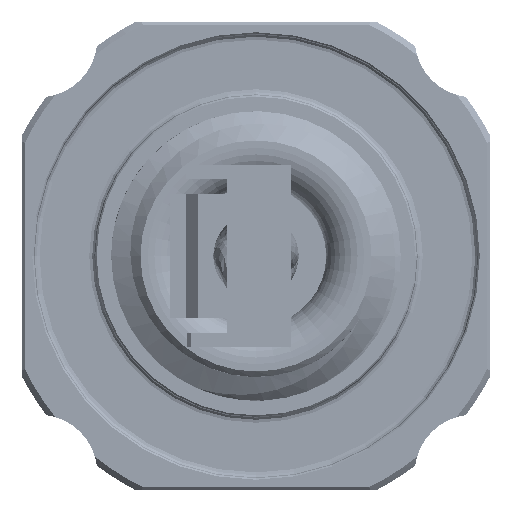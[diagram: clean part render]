
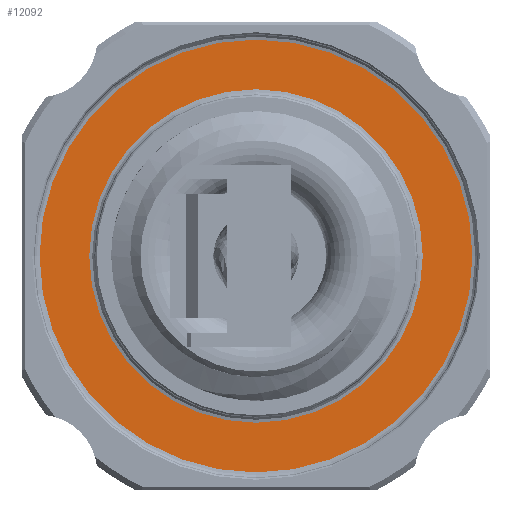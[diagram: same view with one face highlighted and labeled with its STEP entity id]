
A CAD part, front view. The second image highlights one B-rep face of the part: STEP entity #12092.
In plain terms, the highlighted planar face has unit normal (0, -1, 0) as drawn and (0, 0, -1) by its records, which use the part's own axes.
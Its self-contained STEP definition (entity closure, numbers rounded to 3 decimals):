
#1616 = CIRCLE ( 'NONE', #22346, 5.7 ) ;
#4201 = DIRECTION ( 'NONE',  ( 0., 0., 1. ) ) ;
#4653 = ORIENTED_EDGE ( 'NONE', *, *, #55653, .T. ) ;
#5301 = ORIENTED_EDGE ( 'NONE', *, *, #30439, .F. ) ;
#7441 = VERTEX_POINT ( 'NONE', #39929 ) ;
#7523 = CIRCLE ( 'NONE', #44306, 7.4 ) ;
#8929 = CARTESIAN_POINT ( 'NONE',  ( 0., 0., 1.25 ) ) ;
#9367 = DIRECTION ( 'NONE',  ( 0., 0., 1. ) ) ;
#10080 = VERTEX_POINT ( 'NONE', #54332 ) ;
#12092 = ADVANCED_FACE ( 'NONE', ( #46201, #15478 ), #28493, .T. ) ;
#15478 = FACE_OUTER_BOUND ( 'NONE', #54325, .T. ) ;
#15602 = VERTEX_POINT ( 'NONE', #53526 ) ;
#17628 = CIRCLE ( 'NONE', #29897, 5.7 ) ;
#19527 = EDGE_LOOP ( 'NONE', ( #50188, #4653 ) ) ;
#19926 = DIRECTION ( 'NONE',  ( 0., 0., -1. ) ) ;
#21761 = CARTESIAN_POINT ( 'NONE',  ( 7.4, 0., 1.25 ) ) ;
#22346 = AXIS2_PLACEMENT_3D ( 'NONE', #50420, #9367, #22959 ) ;
#22959 = DIRECTION ( 'NONE',  ( 1., 0., 0. ) ) ;
#23516 = AXIS2_PLACEMENT_3D ( 'NONE', #33155, #29019, #46131 ) ;
#25428 = CIRCLE ( 'NONE', #23516, 7.4 ) ;
#26016 = EDGE_CURVE ( 'NONE', #7441, #33301, #25428, .T. ) ;
#28493 = PLANE ( 'NONE',  #46410 ) ;
#29019 = DIRECTION ( 'NONE',  ( 0., 0., 1. ) ) ;
#29897 = AXIS2_PLACEMENT_3D ( 'NONE', #8929, #4201, #30814 ) ;
#30439 = EDGE_CURVE ( 'NONE', #33301, #7441, #7523, .T. ) ;
#30814 = DIRECTION ( 'NONE',  ( 1., 0., 0. ) ) ;
#32930 = DIRECTION ( 'NONE',  ( -1., 0., 0. ) ) ;
#33155 = CARTESIAN_POINT ( 'NONE',  ( 0., 0., 1.25 ) ) ;
#33301 = VERTEX_POINT ( 'NONE', #21761 ) ;
#35395 = EDGE_CURVE ( 'NONE', #10080, #15602, #1616, .T. ) ;
#37651 = CARTESIAN_POINT ( 'NONE',  ( -5.7, 0., 1.25 ) ) ;
#37899 = DIRECTION ( 'NONE',  ( 0., 0., 1. ) ) ;
#39929 = CARTESIAN_POINT ( 'NONE',  ( -7.4, 0., 1.25 ) ) ;
#42023 = CARTESIAN_POINT ( 'NONE',  ( 0., 0., 1.25 ) ) ;
#44306 = AXIS2_PLACEMENT_3D ( 'NONE', #42023, #37899, #45564 ) ;
#45564 = DIRECTION ( 'NONE',  ( 1., 0., 0. ) ) ;
#46131 = DIRECTION ( 'NONE',  ( 1., 0., 0. ) ) ;
#46201 = FACE_BOUND ( 'NONE', #19527, .T. ) ;
#46410 = AXIS2_PLACEMENT_3D ( 'NONE', #37651, #19926, #32930 ) ;
#50188 = ORIENTED_EDGE ( 'NONE', *, *, #35395, .T. ) ;
#50420 = CARTESIAN_POINT ( 'NONE',  ( 0., 0., 1.25 ) ) ;
#53526 = CARTESIAN_POINT ( 'NONE',  ( -5.7, 0., 1.25 ) ) ;
#54325 = EDGE_LOOP ( 'NONE', ( #5301, #54755 ) ) ;
#54332 = CARTESIAN_POINT ( 'NONE',  ( 5.7, 0., 1.25 ) ) ;
#54755 = ORIENTED_EDGE ( 'NONE', *, *, #26016, .F. ) ;
#55653 = EDGE_CURVE ( 'NONE', #15602, #10080, #17628, .T. ) ;
